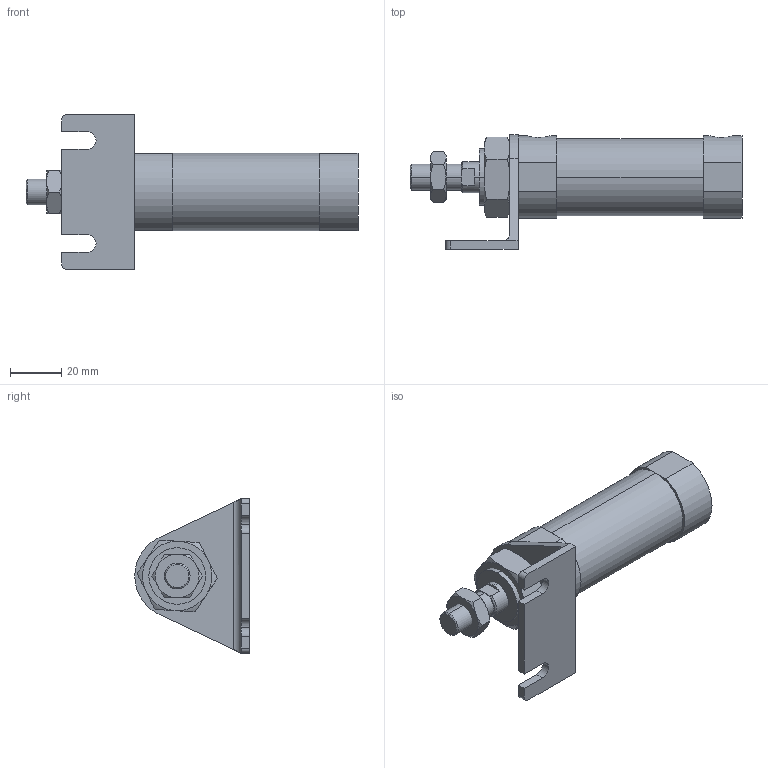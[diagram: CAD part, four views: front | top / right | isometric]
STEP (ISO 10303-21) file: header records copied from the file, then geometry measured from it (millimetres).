
FILE_DESCRIPTION (( 'STEP AP203' ), '1' );
FILE_NAME ('JGND2-25-25-L.STEP', '2016-08-04T02:34:43', ( '' ), ( '' ), 'SwSTEP 2.0', 'SolidWorks 2014', '' );
FILE_SCHEMA (( 'CONFIG_CONTROL_DESIGN' ));
Length unit declared in the file: millimetre
Products named in the file (5): J#2-25-25(P); JGND2-25-25-L; J#2-25-L
Assembly tree (4 placements, depth 2):
  JGND2-25-25-L
    J#2-25-25(P)
    (unnamed)
    (unnamed)
    J#2-25-L
Bounding box: 129 x 44.5 x 60 mm (x, y, z)
Volume: 82419.5 mm3; surface area: 22770.8 mm2
Topology: 4 solids, 4 shells, 115 faces, 268 edges, 162 vertices
Faces by surface type: plane 50, cylinder 33, torus 24, cone 8
Entity records: 4077 total; most frequent: CARTESIAN_POINT 994, DIRECTION 542, ORIENTED_EDGE 528, EDGE_CURVE 264, AXIS2_PLACEMENT_3D 214, VERTEX_POINT 162, EDGE_LOOP 126, FACE_OUTER_BOUND 115
